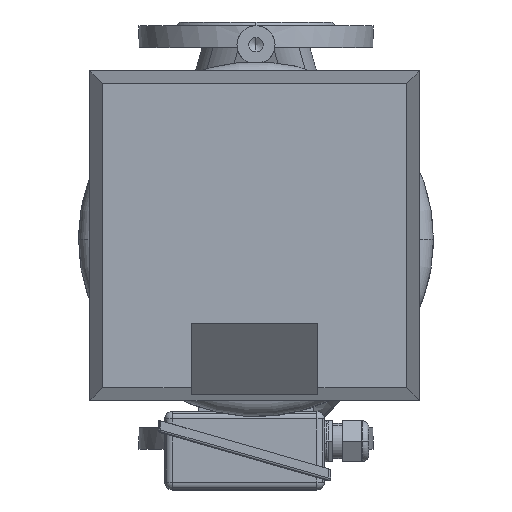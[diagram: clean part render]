
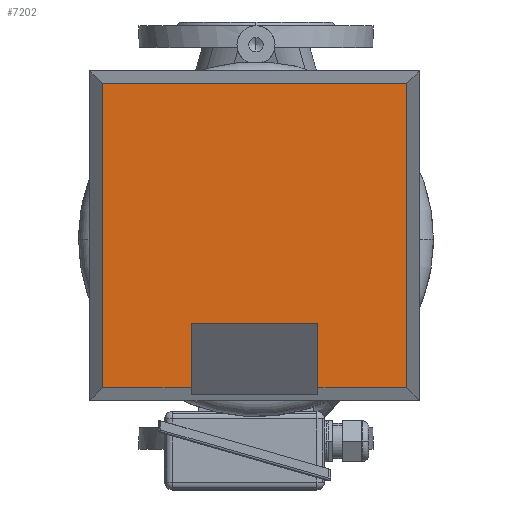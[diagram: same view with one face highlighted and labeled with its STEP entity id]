
A CAD part, top view. The second image highlights one B-rep face of the part: STEP entity #7202.
In plain terms, the highlighted planar face has unit normal (0, 0, 1) as drawn and (0, 1, 0) by its records, which use the part's own axes.
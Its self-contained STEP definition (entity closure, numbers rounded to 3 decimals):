
#7202=ADVANCED_FACE('',(#13888),#13889,.T.);
#7212=EDGE_CURVE('',#13904,#13901,#13905,.T.);
#13888=FACE_OUTER_BOUND('',#28104,.T.);
#13889=PLANE('',#28105);
#13901=VERTEX_POINT('',#28118);
#13904=VERTEX_POINT('',#28123);
#13905=LINE('',#28124,#28125);
#28104=EDGE_LOOP('',(#37767,#37768,#37769,#37770,#37771,#37772,#37773,#37774));
#28105=AXIS2_PLACEMENT_3D('',#37775,#37776,#37777);
#28118=CARTESIAN_POINT('',(-50.0,90.0,199.485));
#28123=CARTESIAN_POINT('',(-50.0,90.0,250.0));
#28124=CARTESIAN_POINT('',(-50.0,90.0,127.834));
#28125=VECTOR('',#37803,1.0);
#37767=ORIENTED_EDGE('',*,*,#39183,.T.);
#37768=ORIENTED_EDGE('',*,*,#39189,.F.);
#37769=ORIENTED_EDGE('',*,*,#39197,.F.);
#37770=ORIENTED_EDGE('',*,*,#39199,.F.);
#37771=ORIENTED_EDGE('',*,*,#39191,.F.);
#37772=ORIENTED_EDGE('',*,*,#39185,.F.);
#37773=ORIENTED_EDGE('',*,*,#7212,.T.);
#37774=ORIENTED_EDGE('',*,*,#39179,.T.);
#37775=CARTESIAN_POINT('',(0.0,90.0,0.0));
#37776=DIRECTION('',(0.0,1.0,-0.0));
#37777=DIRECTION('',(-1.0,0.0,0.0));
#37803=DIRECTION('',(0.0,-0.0,-1.0));
#39179=EDGE_CURVE('',#13901,#40808,#40811,.T.);
#39183=EDGE_CURVE('',#40808,#40814,#40816,.T.);
#39185=EDGE_CURVE('',#13904,#40818,#40819,.T.);
#39189=EDGE_CURVE('',#40824,#40814,#40826,.T.);
#39191=EDGE_CURVE('',#40818,#40828,#40829,.T.);
#39197=EDGE_CURVE('',#40834,#40824,#40836,.T.);
#39199=EDGE_CURVE('',#40828,#40834,#40838,.T.);
#40808=VERTEX_POINT('',#45012);
#40811=LINE('',#45016,#45017);
#40814=VERTEX_POINT('',#45021);
#40816=LINE('',#45024,#45025);
#40818=VERTEX_POINT('',#45027);
#40819=LINE('',#45028,#45029);
#40824=VERTEX_POINT('',#45036);
#40826=LINE('',#45039,#45040);
#40828=VERTEX_POINT('',#45042);
#40829=LINE('',#45043,#45044);
#40834=VERTEX_POINT('',#45052);
#40836=LINE('',#45055,#45056);
#40838=LINE('',#45058,#45059);
#45012=CARTESIAN_POINT('',(50.0,90.0,199.485));
#45016=CARTESIAN_POINT('',(-25.0,90.0,199.485));
#45017=VECTOR('',#45705,1.0);
#45021=CARTESIAN_POINT('',(50.0,90.0,250.0));
#45024=CARTESIAN_POINT('',(50.0,90.0,127.834));
#45025=VECTOR('',#45708,1.0);
#45027=CARTESIAN_POINT('',(-120.0,90.0,250.0));
#45028=CARTESIAN_POINT('',(65.0,90.0,250.0));
#45029=VECTOR('',#45709,1.0);
#45036=CARTESIAN_POINT('',(120.0,90.0,250.0));
#45039=CARTESIAN_POINT('',(65.0,90.0,250.0));
#45040=VECTOR('',#45713,1.0);
#45042=CARTESIAN_POINT('',(-120.0,90.0,10.0));
#45043=CARTESIAN_POINT('',(-120.0,90.0,0.0));
#45044=VECTOR('',#45714,1.0);
#45052=CARTESIAN_POINT('',(120.0,90.0,10.0));
#45055=CARTESIAN_POINT('',(120.0,90.0,0.0));
#45056=VECTOR('',#45719,1.0);
#45058=CARTESIAN_POINT('',(65.0,90.0,10.0));
#45059=VECTOR('',#45720,1.0);
#45705=DIRECTION('',(1.0,0.0,0.0));
#45708=DIRECTION('',(-0.0,0.0,1.0));
#45709=DIRECTION('',(-1.0,0.0,-0.0));
#45713=DIRECTION('',(-1.0,0.0,-0.0));
#45714=DIRECTION('',(-0.0,-0.0,-1.0));
#45719=DIRECTION('',(-0.0,0.0,1.0));
#45720=DIRECTION('',(1.0,-0.0,-0.0));
